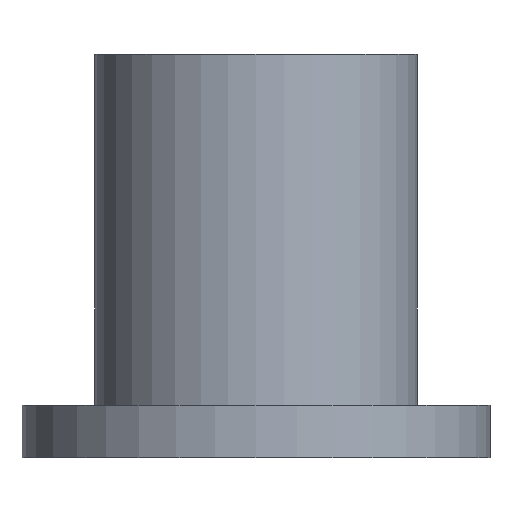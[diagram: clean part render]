
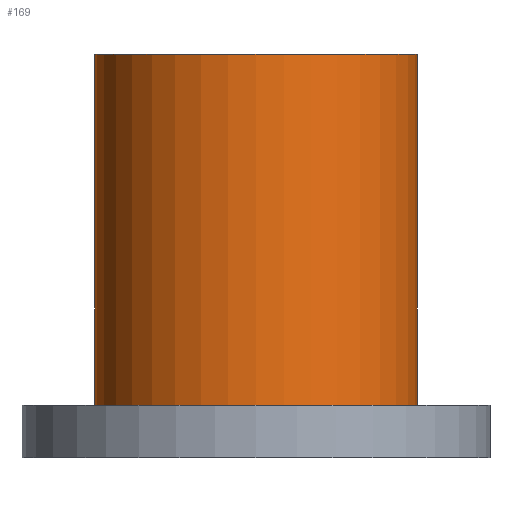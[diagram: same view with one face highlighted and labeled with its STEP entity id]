
A CAD part, front view. The second image highlights one B-rep face of the part: STEP entity #169.
In plain terms, the highlighted cylindrical face has radius 40 mm (diameter 80 mm), a partial arc.
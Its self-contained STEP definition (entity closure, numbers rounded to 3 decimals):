
#128=CARTESIAN_POINT('',(0.0,-0.1,0.0));
#129=DIRECTION('',(0.0,0.0,1.0));
#130=DIRECTION('',(-1.0,0.0,0.0));
#131=AXIS2_PLACEMENT_3D('',#128,#129,#130);
#132=CYLINDRICAL_SURFACE('',#131,40.0);
#133=CARTESIAN_POINT('',(-40.0,-0.1,13.0));
#134=VERTEX_POINT('',#133);
#135=CARTESIAN_POINT('',(-40.0,-0.1,100.0));
#136=VERTEX_POINT('',#135);
#137=CARTESIAN_POINT('',(-40.0,-0.1,13.0));
#138=DIRECTION('',(0.0,0.0,1.0));
#139=VECTOR('',#138,87.0);
#140=LINE('',#137,#139);
#141=EDGE_CURVE('',#134,#136,#140,.T.);
#142=ORIENTED_EDGE('',*,*,#141,.F.);
#143=CARTESIAN_POINT('',(40.0,-0.1,13.0));
#144=VERTEX_POINT('',#143);
#145=CARTESIAN_POINT('',(0.0,-0.1,13.0));
#146=DIRECTION('',(0.0,0.0,-1.0));
#147=DIRECTION('',(-1.0,0.0,0.0));
#148=AXIS2_PLACEMENT_3D('',#145,#146,#147);
#149=CIRCLE('',#148,40.0);
#150=EDGE_CURVE('',#144,#134,#149,.T.);
#151=ORIENTED_EDGE('',*,*,#150,.F.);
#152=CARTESIAN_POINT('',(40.0,-0.1,100.0));
#153=VERTEX_POINT('',#152);
#154=CARTESIAN_POINT('',(40.0,-0.1,100.0));
#155=DIRECTION('',(0.0,0.0,-1.0));
#156=VECTOR('',#155,87.0);
#157=LINE('',#154,#156);
#158=EDGE_CURVE('',#153,#144,#157,.T.);
#159=ORIENTED_EDGE('',*,*,#158,.F.);
#160=CARTESIAN_POINT('',(0.0,-0.1,100.0));
#161=DIRECTION('',(0.0,0.0,-1.0));
#162=DIRECTION('',(-1.0,0.0,0.0));
#163=AXIS2_PLACEMENT_3D('',#160,#161,#162);
#164=CIRCLE('',#163,40.0);
#165=EDGE_CURVE('',#153,#136,#164,.T.);
#166=ORIENTED_EDGE('',*,*,#165,.T.);
#167=EDGE_LOOP('',(#142,#151,#159,#166));
#168=FACE_OUTER_BOUND('',#167,.T.);
#169=ADVANCED_FACE('',(#168),#132,.T.);
